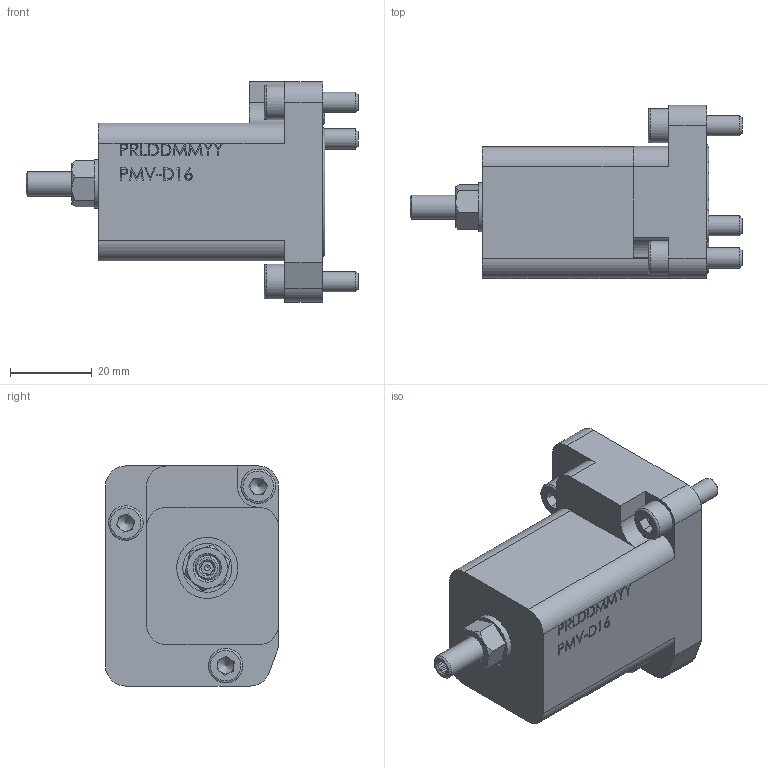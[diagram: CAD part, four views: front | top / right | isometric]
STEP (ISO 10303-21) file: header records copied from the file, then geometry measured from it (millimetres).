
FILE_DESCRIPTION (( 'STEP AP214' ), '1' );
FILE_NAME ('0301584.STEP', '2022-06-22T13:20:38', ( '' ), ( '' ), 'SwSTEP 2.0', 'SolidWorks 2020', '' );
FILE_SCHEMA (( 'AUTOMOTIVE_DESIGN' ));
Length unit declared in the file: millimetre
Products named in the file (7): 0074669_079.3125; 0290158_011; 0074697_246.2119; 0301584; 0285953_002; 0290158_001; 0073842_153.2301
Assembly tree (8 placements, depth 2):
  0301584
    0285953_002
    0074697_246.2119  x3
    0073842_153.2301
    0074669_079.3125
    0290158_001
    0290158_011
Bounding box: 81.45 x 42.5 x 54 mm (x, y, z)
Volume: 73510.9 mm3; surface area: 15968.8 mm2
Topology: 8 solids, 9 shells, 377 faces, 919 edges, 591 vertices
Faces by surface type: plane 250, bspline 55, cylinder 42, cone 24, torus 6
Full cylindrical faces by diameter (mm): 3.5 x1, 4.47 x1, 5 x5, 5.5 x6, 6 x1, 7.8 x1, 8.03 x1, 8.5 x3, 12 x1, 15 x1, 26 x1, 28.3 x1, 31.2 x1, 31.86 x1
Entity records: 12724 total; most frequent: CARTESIAN_POINT 5002, ORIENTED_EDGE 1560, DIRECTION 1335, EDGE_CURVE 780, VECTOR 551, LINE 551, VERTEX_POINT 527, EDGE_LOOP 409
